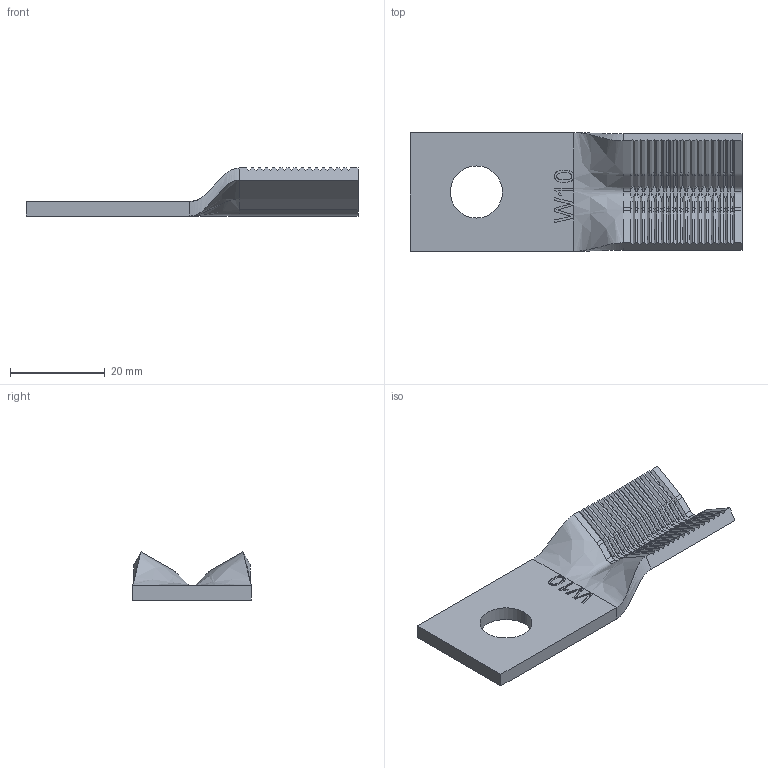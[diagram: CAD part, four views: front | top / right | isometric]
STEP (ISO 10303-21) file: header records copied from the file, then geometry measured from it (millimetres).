
FILE_DESCRIPTION (( 'STEP AP214' ), '1' );
FILE_NAME ('W10.STEP', '2025-01-29T13:47:53', ( '' ), ( '' ), 'SwSTEP 2.0', 'SolidWorks 2015', '' );
FILE_SCHEMA (( 'AUTOMOTIVE_DESIGN' ));
Length unit declared in the file: millimetre
Products named in the file (1): W10
Bounding box: 70 x 25 x 10.13 mm (x, y, z)
Volume: 5095.3 mm3; surface area: 4349.1 mm2
Topology: 1 solids, 1 shells, 447 faces, 984 edges, 540 vertices
Faces by surface type: plane 235, cone 120, cylinder 68, bspline 24
Entity records: 13108 total; most frequent: CARTESIAN_POINT 3572, ORIENTED_EDGE 1968, DIRECTION 1924, EDGE_CURVE 984, LINE 684, VECTOR 684, AXIS2_PLACEMENT_3D 620, VERTEX_POINT 540
